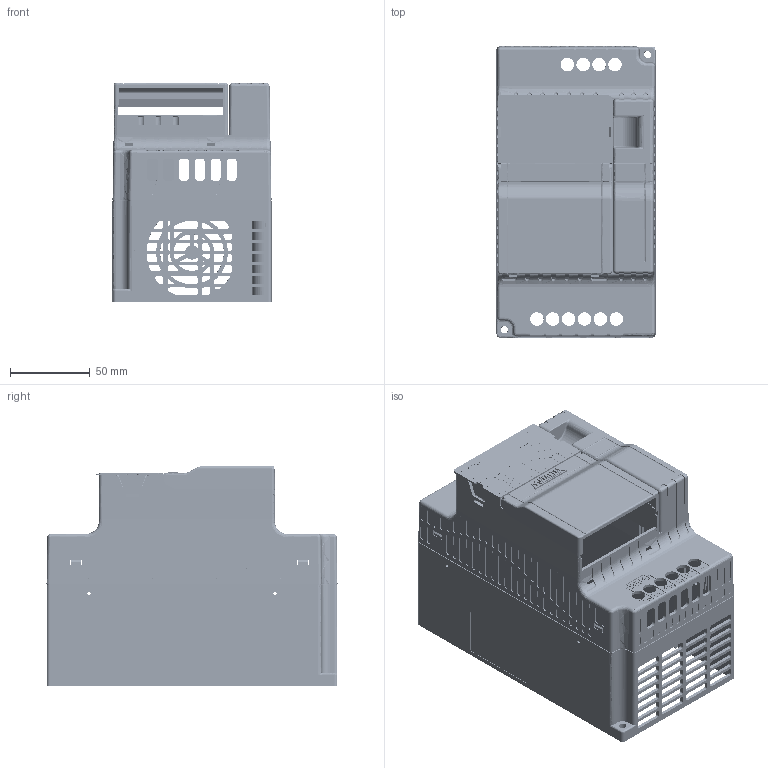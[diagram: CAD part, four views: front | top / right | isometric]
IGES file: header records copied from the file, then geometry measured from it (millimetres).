
Start section: SolidWorks IGES file using analytic representation for surfaces
Global section: file name: D:\X - Arquivos\PROEX\Empresas\P11 - METALTEX\Arquivo - Recebi por e-mail\3\3.2\IF20\IGES\z2000-3_7_5_5kw (S12).IGS; native system: SolidWorks 2012; preprocessor: SolidWorks 2012; author: Usuario; date: 190524.103926; units: millimetre
Bounding box: 100.03 x 183.03 x 138.1 mm (x, y, z)
Surface area: 220808.5 mm2 (no closed solid volume)
Topology: 0 solids, 0 shells, 4733 faces, 40977 edges, 40960 vertices
Faces by surface type: bspline 3505, revolution 1228
